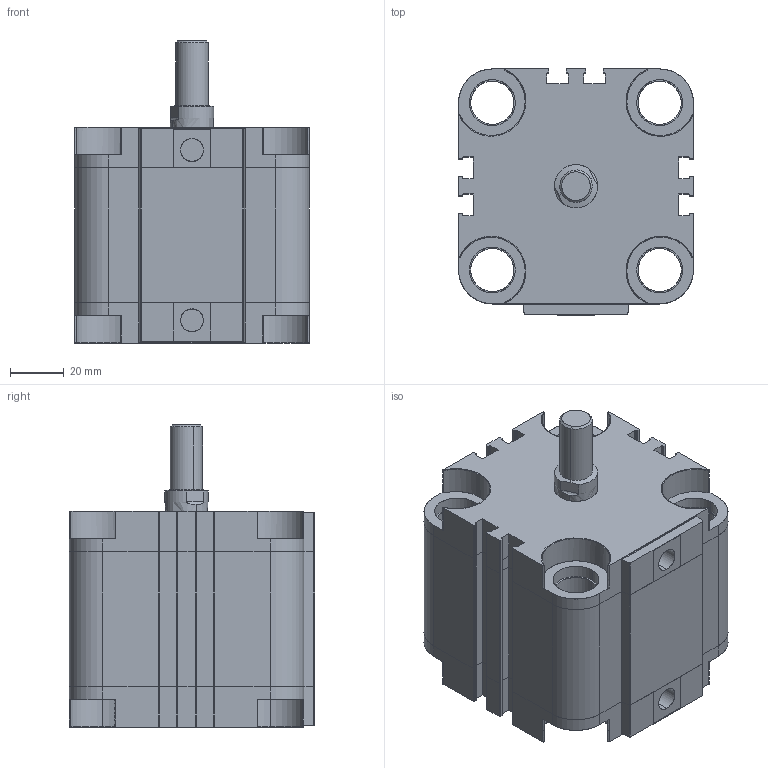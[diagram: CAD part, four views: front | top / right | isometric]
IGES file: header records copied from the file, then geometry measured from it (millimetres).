
Start section: SolidWorks IGES file using analytic representation for surfaces
Global section: file name: D:\ARICA 3D ÇÝZÝMLER\3D IGES\ADVU-S-A\ADVU-S-A 63\ADVU63X30-S-A-CYLINDER.IGS; native system: SolidWorks 2013; preprocessor: SolidWorks 2013; author: user; date: 150414.102410; units: millimetre
Bounding box: 87 x 91.1 x 112 mm (x, y, z)
Surface area: 113217.4 mm2 (no closed solid volume)
Topology: 0 solids, 0 shells, 552 faces, 8198 edges, 8198 vertices
Faces by surface type: revolution 315, bspline 237
